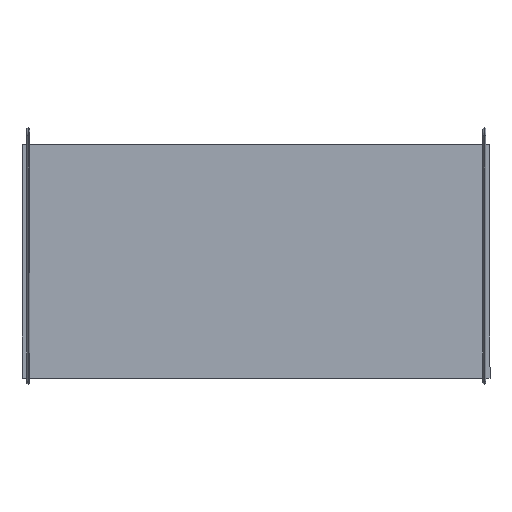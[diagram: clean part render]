
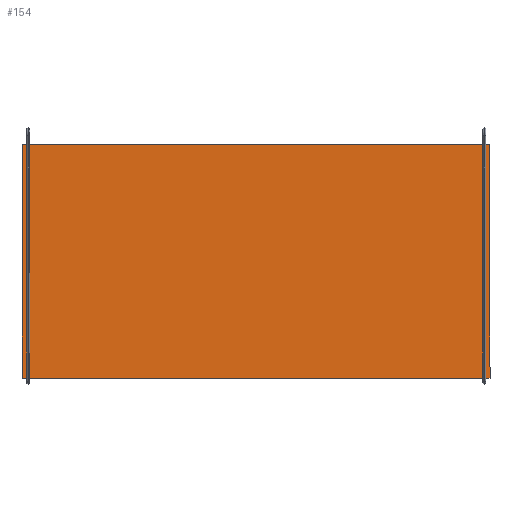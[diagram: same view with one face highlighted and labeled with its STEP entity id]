
A CAD part, top view. The second image highlights one B-rep face of the part: STEP entity #154.
In plain terms, the highlighted planar face has unit normal (0, 0, 1).
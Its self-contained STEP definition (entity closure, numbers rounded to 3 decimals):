
#154=ADVANCED_FACE('',(#200),#872,.T.);
#200=FACE_OUTER_BOUND('',#246,.T.);
#246=EDGE_LOOP('',(#292,#293,#294,#295));
#292=ORIENTED_EDGE('',*,*,#580,.T.);
#293=ORIENTED_EDGE('',*,*,#581,.T.);
#294=ORIENTED_EDGE('',*,*,#582,.F.);
#295=ORIENTED_EDGE('',*,*,#583,.F.);
#580=EDGE_CURVE('',#768,#769,#724,.T.);
#581=EDGE_CURVE('',#769,#770,#725,.T.);
#582=EDGE_CURVE('',#771,#770,#726,.T.);
#583=EDGE_CURVE('',#768,#771,#727,.T.);
#724=B_SPLINE_CURVE_WITH_KNOTS('',1,(#1050,#1051),.UNSPECIFIED.,.F.,.F.,
(2,2),(-832.,-432.),.UNSPECIFIED.);
#725=B_SPLINE_CURVE_WITH_KNOTS('',1,(#1052,#1053),.UNSPECIFIED.,.F.,.F.,
(2,2),(0.,800.),.UNSPECIFIED.);
#726=B_SPLINE_CURVE_WITH_KNOTS('',1,(#1054,#1055),.UNSPECIFIED.,.F.,.F.,
(2,2),(-832.,-432.),.UNSPECIFIED.);
#727=B_SPLINE_CURVE_WITH_KNOTS('',1,(#1056,#1057),.UNSPECIFIED.,.F.,.F.,
(2,2),(0.,800.),.UNSPECIFIED.);
#768=VERTEX_POINT('',#1042);
#769=VERTEX_POINT('',#1043);
#770=VERTEX_POINT('',#1044);
#771=VERTEX_POINT('',#1045);
#872=PLANE('',#970);
#970=AXIS2_PLACEMENT_3D('',#1036,#1003,$);
#1003=DIRECTION('',(0.,0.,1.));
#1036=CARTESIAN_POINT('',(-400.,190.162,16.));
#1042=CARTESIAN_POINT('',(-400.,190.162,16.));
#1043=CARTESIAN_POINT('',(-400.,-209.838,16.));
#1044=CARTESIAN_POINT('',(400.,-209.838,16.));
#1045=CARTESIAN_POINT('',(400.,190.162,16.));
#1050=CARTESIAN_POINT('',(-400.,190.162,16.));
#1051=CARTESIAN_POINT('',(-400.,-209.838,16.));
#1052=CARTESIAN_POINT('',(-400.,-209.838,16.));
#1053=CARTESIAN_POINT('',(400.,-209.838,16.));
#1054=CARTESIAN_POINT('',(400.,190.162,16.));
#1055=CARTESIAN_POINT('',(400.,-209.838,16.));
#1056=CARTESIAN_POINT('',(-400.,190.162,16.));
#1057=CARTESIAN_POINT('',(400.,190.162,16.));
